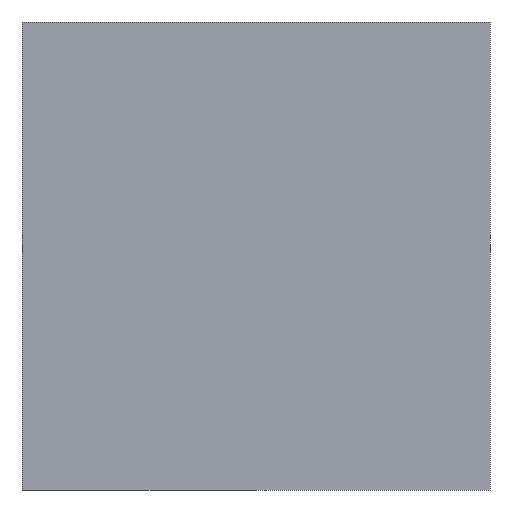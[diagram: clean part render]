
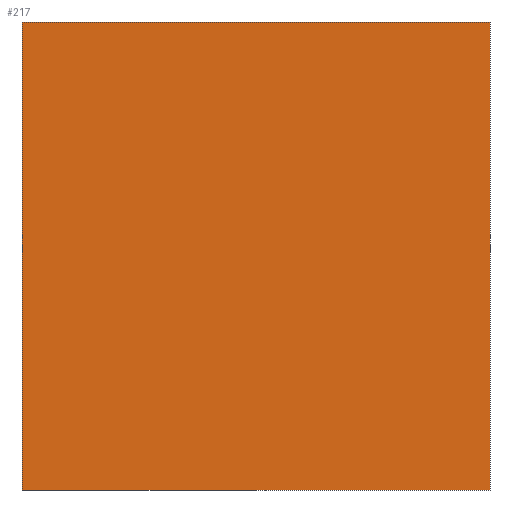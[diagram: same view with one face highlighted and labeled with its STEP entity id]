
A CAD part, left-side view. The second image highlights one B-rep face of the part: STEP entity #217.
In plain terms, the highlighted planar face has unit normal (-1, 0, 0).
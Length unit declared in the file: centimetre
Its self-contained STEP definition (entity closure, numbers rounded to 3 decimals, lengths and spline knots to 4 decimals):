
#4 = VECTOR ( 'NONE', #47, 100. ) ;
#5 = LINE ( 'NONE', #131, #4 ) ;
#11 = ORIENTED_EDGE ( 'NONE', *, *, #175, .F. ) ;
#29 = CARTESIAN_POINT ( 'NONE',  ( 0., 1000., 1000. ) ) ;
#37 = LINE ( 'NONE', #285, #378 ) ;
#38 = EDGE_LOOP ( 'NONE', ( #398, #155, #11, #279 ) ) ;
#47 = DIRECTION ( 'NONE',  ( 0., 0., -1. ) ) ;
#97 = CARTESIAN_POINT ( 'NONE',  ( 0., 0., 1000. ) ) ;
#115 = VECTOR ( 'NONE', #415, 100. ) ;
#126 = LINE ( 'NONE', #163, #115 ) ;
#131 = CARTESIAN_POINT ( 'NONE',  ( 0., 1000., 1000. ) ) ;
#145 = DIRECTION ( 'NONE',  ( 0., 0., -1. ) ) ;
#155 = ORIENTED_EDGE ( 'NONE', *, *, #413, .F. ) ;
#163 = CARTESIAN_POINT ( 'NONE',  ( 0., 1000., 0. ) ) ;
#165 = DIRECTION ( 'NONE',  ( 0., -1., 0. ) ) ;
#175 = EDGE_CURVE ( 'NONE', #288, #410, #37, .T. ) ;
#179 = LINE ( 'NONE', #472, #487 ) ;
#203 = PLANE ( 'NONE',  #544 ) ;
#208 = DIRECTION ( 'NONE',  ( 1., 0., 0. ) ) ;
#217 = ADVANCED_FACE ( 'NONE', ( #287 ), #203, .F. ) ;
#249 = EDGE_CURVE ( 'NONE', #264, #260, #126, .T. ) ;
#260 = VERTEX_POINT ( 'NONE', #262 ) ;
#262 = CARTESIAN_POINT ( 'NONE',  ( 0., 0., 0. ) ) ;
#264 = VERTEX_POINT ( 'NONE', #464 ) ;
#279 = ORIENTED_EDGE ( 'NONE', *, *, #328, .T. ) ;
#285 = CARTESIAN_POINT ( 'NONE',  ( 0., 1000., 1000. ) ) ;
#287 = FACE_OUTER_BOUND ( 'NONE', #38, .T. ) ;
#288 = VERTEX_POINT ( 'NONE', #338 ) ;
#328 = EDGE_CURVE ( 'NONE', #288, #264, #5, .T. ) ;
#338 = CARTESIAN_POINT ( 'NONE',  ( 0., 1000., 1000. ) ) ;
#378 = VECTOR ( 'NONE', #165, 100. ) ;
#398 = ORIENTED_EDGE ( 'NONE', *, *, #249, .T. ) ;
#410 = VERTEX_POINT ( 'NONE', #97 ) ;
#413 = EDGE_CURVE ( 'NONE', #410, #260, #179, .T. ) ;
#415 = DIRECTION ( 'NONE',  ( 0., -1., 0. ) ) ;
#455 = DIRECTION ( 'NONE',  ( 0., 0., -1. ) ) ;
#464 = CARTESIAN_POINT ( 'NONE',  ( 0., 1000., 0. ) ) ;
#472 = CARTESIAN_POINT ( 'NONE',  ( 0., 0., 1000. ) ) ;
#487 = VECTOR ( 'NONE', #145, 100. ) ;
#544 = AXIS2_PLACEMENT_3D ( 'NONE', #29, #208, #455 ) ;
